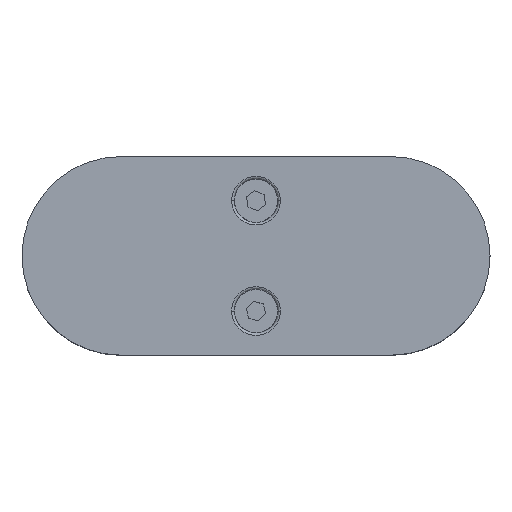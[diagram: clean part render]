
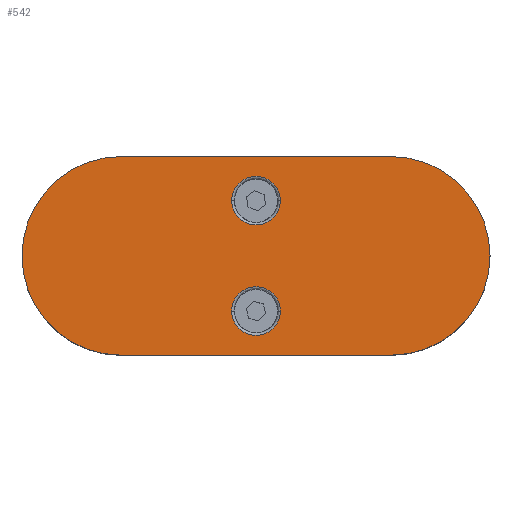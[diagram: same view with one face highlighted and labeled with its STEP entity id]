
A CAD part, top view. The second image highlights one B-rep face of the part: STEP entity #542.
In plain terms, the highlighted planar face has unit normal (0, 0, 1).
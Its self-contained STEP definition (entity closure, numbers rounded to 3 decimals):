
#26 = EDGE_LOOP ( 'NONE', ( #2602, #2790 ) ) ;
#70 = CARTESIAN_POINT ( 'NONE',  ( -5.5, 12.5, 15. ) ) ;
#101 = DIRECTION ( 'NONE',  ( 0., 0., 1. ) ) ;
#106 = EDGE_CURVE ( 'NONE', #3051, #2833, #850, .T. ) ;
#160 = DIRECTION ( 'NONE',  ( 1., 0., 0. ) ) ;
#174 = CARTESIAN_POINT ( 'NONE',  ( -30.5, 0., 15. ) ) ;
#186 = CARTESIAN_POINT ( 'NONE',  ( -30.5, -22.5, 15. ) ) ;
#193 = EDGE_LOOP ( 'NONE', ( #523, #1351, #1016, #1777, #2773 ) ) ;
#222 = LINE ( 'NONE', #186, #1871 ) ;
#231 = CARTESIAN_POINT ( 'NONE',  ( 30.5, 22.5, 15. ) ) ;
#239 = EDGE_CURVE ( 'NONE', #2667, #1243, #1474, .T. ) ;
#297 = EDGE_CURVE ( 'NONE', #2833, #3051, #2357, .T. ) ;
#422 = AXIS2_PLACEMENT_3D ( 'NONE', #1180, #1402, #1150 ) ;
#449 = AXIS2_PLACEMENT_3D ( 'NONE', #2677, #2632, #160 ) ;
#489 = AXIS2_PLACEMENT_3D ( 'NONE', #3041, #1807, #888 ) ;
#523 = ORIENTED_EDGE ( 'NONE', *, *, #1701, .T. ) ;
#542 = ADVANCED_FACE ( 'NONE', ( #1145, #2421, #1652 ), #890, .T. ) ;
#637 = VERTEX_POINT ( 'NONE', #1768 ) ;
#721 = DIRECTION ( 'NONE',  ( 1., 0., 0. ) ) ;
#755 = DIRECTION ( 'NONE',  ( 0., 0., -1. ) ) ;
#850 = CIRCLE ( 'NONE', #422, 5.5 ) ;
#865 = CARTESIAN_POINT ( 'NONE',  ( 5.5, 12.5, 15. ) ) ;
#888 = DIRECTION ( 'NONE',  ( 1., 0., 0. ) ) ;
#890 = PLANE ( 'NONE',  #449 ) ;
#1016 = ORIENTED_EDGE ( 'NONE', *, *, #1697, .T. ) ;
#1023 = DIRECTION ( 'NONE',  ( 1., 0., 0. ) ) ;
#1080 = CARTESIAN_POINT ( 'NONE',  ( 30.5, -22.5, 15. ) ) ;
#1093 = ORIENTED_EDGE ( 'NONE', *, *, #297, .T. ) ;
#1145 = FACE_BOUND ( 'NONE', #2542, .T. ) ;
#1150 = DIRECTION ( 'NONE',  ( 1., 0., 0. ) ) ;
#1158 = VERTEX_POINT ( 'NONE', #1779 ) ;
#1180 = CARTESIAN_POINT ( 'NONE',  ( 0., -12.5, 15. ) ) ;
#1243 = VERTEX_POINT ( 'NONE', #865 ) ;
#1296 = CARTESIAN_POINT ( 'NONE',  ( -30.5, 22.5, 15. ) ) ;
#1299 = CARTESIAN_POINT ( 'NONE',  ( 0., 12.5, 15. ) ) ;
#1351 = ORIENTED_EDGE ( 'NONE', *, *, #2663, .T. ) ;
#1402 = DIRECTION ( 'NONE',  ( 0., 0., -1. ) ) ;
#1474 = CIRCLE ( 'NONE', #2405, 5.5 ) ;
#1535 = ORIENTED_EDGE ( 'NONE', *, *, #106, .T. ) ;
#1591 = VECTOR ( 'NONE', #2056, 1000. ) ;
#1652 = FACE_OUTER_BOUND ( 'NONE', #193, .T. ) ;
#1668 = EDGE_CURVE ( 'NONE', #2404, #2340, #2497, .T. ) ;
#1697 = EDGE_CURVE ( 'NONE', #2892, #2404, #222, .T. ) ;
#1701 = EDGE_CURVE ( 'NONE', #637, #1158, #2030, .T. ) ;
#1755 = DIRECTION ( 'NONE',  ( 1., 0., 0. ) ) ;
#1761 = CIRCLE ( 'NONE', #1816, 22.5 ) ;
#1768 = CARTESIAN_POINT ( 'NONE',  ( -30.5, 22.5, 15. ) ) ;
#1777 = ORIENTED_EDGE ( 'NONE', *, *, #1668, .T. ) ;
#1779 = CARTESIAN_POINT ( 'NONE',  ( -53., 0., 15. ) ) ;
#1807 = DIRECTION ( 'NONE',  ( 0., 0., -1. ) ) ;
#1816 = AXIS2_PLACEMENT_3D ( 'NONE', #3030, #2512, #2564 ) ;
#1857 = DIRECTION ( 'NONE',  ( 1., 0., 0. ) ) ;
#1871 = VECTOR ( 'NONE', #721, 1000. ) ;
#2030 = CIRCLE ( 'NONE', #2551, 22.5 ) ;
#2056 = DIRECTION ( 'NONE',  ( -1., 0., 0. ) ) ;
#2181 = AXIS2_PLACEMENT_3D ( 'NONE', #3095, #101, #1857 ) ;
#2194 = DIRECTION ( 'NONE',  ( 1., 0., 0. ) ) ;
#2340 = VERTEX_POINT ( 'NONE', #231 ) ;
#2357 = CIRCLE ( 'NONE', #3185, 5.5 ) ;
#2404 = VERTEX_POINT ( 'NONE', #1080 ) ;
#2405 = AXIS2_PLACEMENT_3D ( 'NONE', #1299, #2768, #1023 ) ;
#2421 = FACE_BOUND ( 'NONE', #26, .T. ) ;
#2423 = DIRECTION ( 'NONE',  ( 0., 0., 1. ) ) ;
#2497 = CIRCLE ( 'NONE', #2181, 22.5 ) ;
#2512 = DIRECTION ( 'NONE',  ( 0., 0., 1. ) ) ;
#2525 = CARTESIAN_POINT ( 'NONE',  ( -5.5, -12.5, 15. ) ) ;
#2540 = LINE ( 'NONE', #1296, #1591 ) ;
#2542 = EDGE_LOOP ( 'NONE', ( #1093, #1535 ) ) ;
#2551 = AXIS2_PLACEMENT_3D ( 'NONE', #174, #2423, #2194 ) ;
#2564 = DIRECTION ( 'NONE',  ( 1., 0., 0. ) ) ;
#2592 = CARTESIAN_POINT ( 'NONE',  ( 5.5, -12.5, 15. ) ) ;
#2602 = ORIENTED_EDGE ( 'NONE', *, *, #3147, .T. ) ;
#2632 = DIRECTION ( 'NONE',  ( 0., 0., 1. ) ) ;
#2663 = EDGE_CURVE ( 'NONE', #1158, #2892, #1761, .T. ) ;
#2667 = VERTEX_POINT ( 'NONE', #70 ) ;
#2677 = CARTESIAN_POINT ( 'NONE',  ( -30.5, 0., 15. ) ) ;
#2768 = DIRECTION ( 'NONE',  ( 0., 0., -1. ) ) ;
#2773 = ORIENTED_EDGE ( 'NONE', *, *, #3131, .T. ) ;
#2790 = ORIENTED_EDGE ( 'NONE', *, *, #239, .T. ) ;
#2833 = VERTEX_POINT ( 'NONE', #2592 ) ;
#2882 = CIRCLE ( 'NONE', #489, 5.5 ) ;
#2891 = CARTESIAN_POINT ( 'NONE',  ( -30.5, -22.5, 15. ) ) ;
#2892 = VERTEX_POINT ( 'NONE', #2891 ) ;
#2992 = CARTESIAN_POINT ( 'NONE',  ( 0., -12.5, 15. ) ) ;
#3030 = CARTESIAN_POINT ( 'NONE',  ( -30.5, 0., 15. ) ) ;
#3041 = CARTESIAN_POINT ( 'NONE',  ( 0., 12.5, 15. ) ) ;
#3051 = VERTEX_POINT ( 'NONE', #2525 ) ;
#3095 = CARTESIAN_POINT ( 'NONE',  ( 30.5, 0., 15. ) ) ;
#3131 = EDGE_CURVE ( 'NONE', #2340, #637, #2540, .T. ) ;
#3147 = EDGE_CURVE ( 'NONE', #1243, #2667, #2882, .T. ) ;
#3185 = AXIS2_PLACEMENT_3D ( 'NONE', #2992, #755, #1755 ) ;
